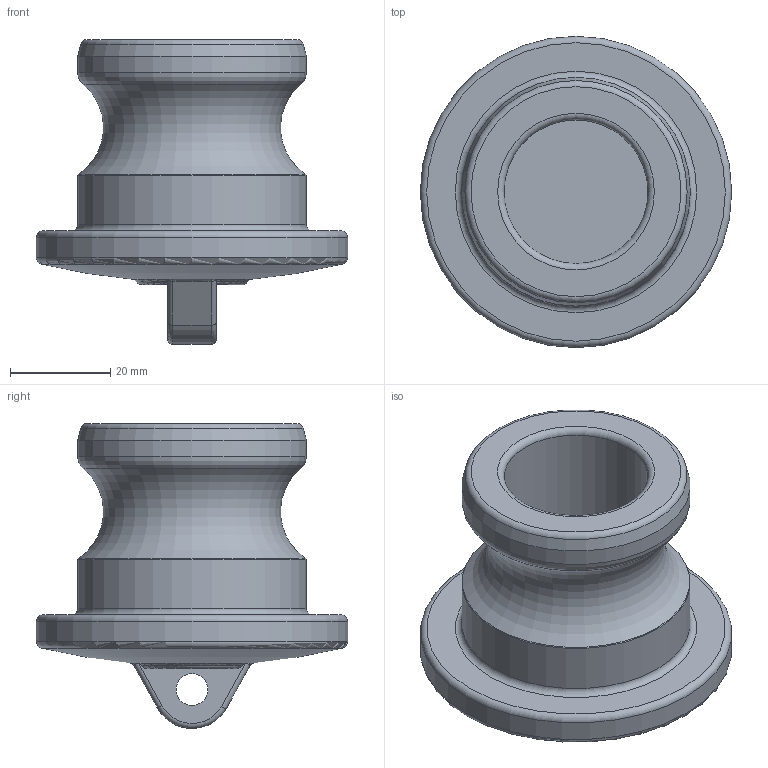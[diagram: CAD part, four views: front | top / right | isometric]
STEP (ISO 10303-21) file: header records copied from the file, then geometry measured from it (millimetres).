
FILE_DESCRIPTION(/* description */ ('Alibre Inc.'),/* implementation_level */ '2;1');
FILE_NAME(/* name */ 'export0',/* time_stamp */ '2016-03-15T17:55:48-04:00',/* author */ (''),/* organization */ (''),/* preprocessor_version */ 'ST-DEVELOPER v14',/* originating_system */ 'Alibre',/* authorisation */ '');
FILE_SCHEMA (('CONFIG_CONTROL_DESIGN'));
Length unit declared in the file: centimetre
Products named in the file (1): ID_1
Bounding box: 61.98 x 61.98 x 60.69 mm (x, y, z)
Volume: 54905.9 mm3; surface area: 16355.5 mm2
Topology: 1 solids, 1 shells, 41 faces, 95 edges, 58 vertices
Faces by surface type: torus 15, cylinder 10, plane 9, bspline 4, cone 2, sphere 1
Full cylindrical faces by diameter (mm): 6.35 x1, 28.651 x1, 45.517 x2, 61.976 x1
Entity records: 2467 total; most frequent: CARTESIAN_POINT 1595, ORIENTED_EDGE 152, DIRECTION 136, EDGE_CURVE 76, AXIS2_PLACEMENT_3D 73, EDGE_LOOP 60, FACE_BOUND 60, VERTEX_POINT 54
